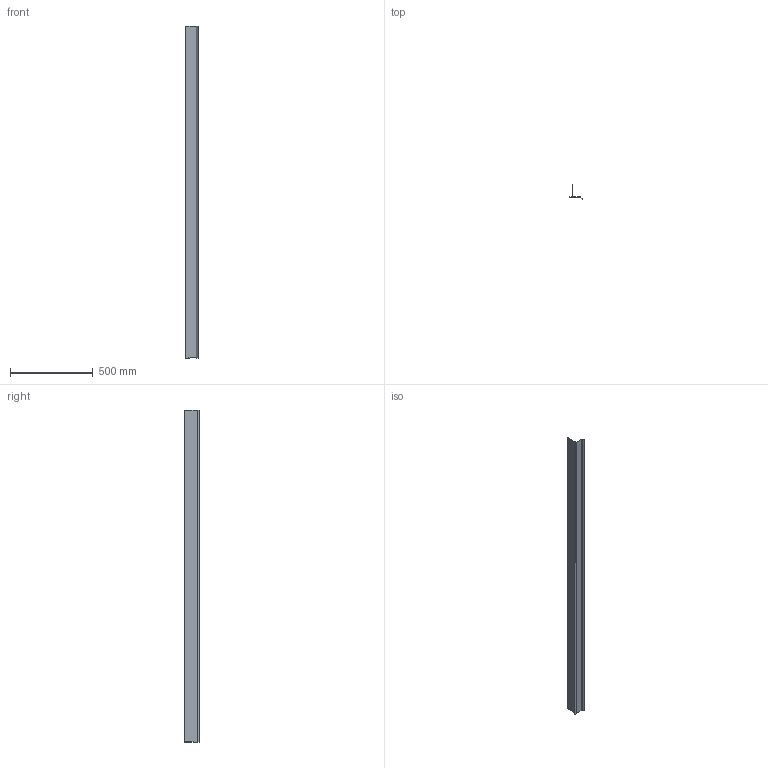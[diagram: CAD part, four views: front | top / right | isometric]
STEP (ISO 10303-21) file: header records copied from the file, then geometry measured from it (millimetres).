
FILE_DESCRIPTION (( 'STEP AP203' ), '1' );
FILE_NAME ('M56E.STEP', '2018-06-19T00:20:56', ( 'Michael Moliner' ), ( '' ), 'SwSTEP 2.0', 'SolidWorks 2018', '' );
FILE_SCHEMA (( 'CONFIG_CONTROL_DESIGN' ));
Length unit declared in the file: inch
Products named in the file (2): M56E
Bounding box: 76.99 x 88.07 x 2000 mm (x, y, z)
Volume: 237520.2 mm3; surface area: 937388.6 mm2
Topology: 1 solids, 1 shells, 27 faces, 75 edges, 50 vertices
Faces by surface type: plane 16, cylinder 11
Entity records: 1028 total; most frequent: DIRECTION 155, CARTESIAN_POINT 154, ORIENTED_EDGE 150, EDGE_CURVE 75, VECTOR 53, LINE 53, AXIS2_PLACEMENT_3D 51, VERTEX_POINT 50
